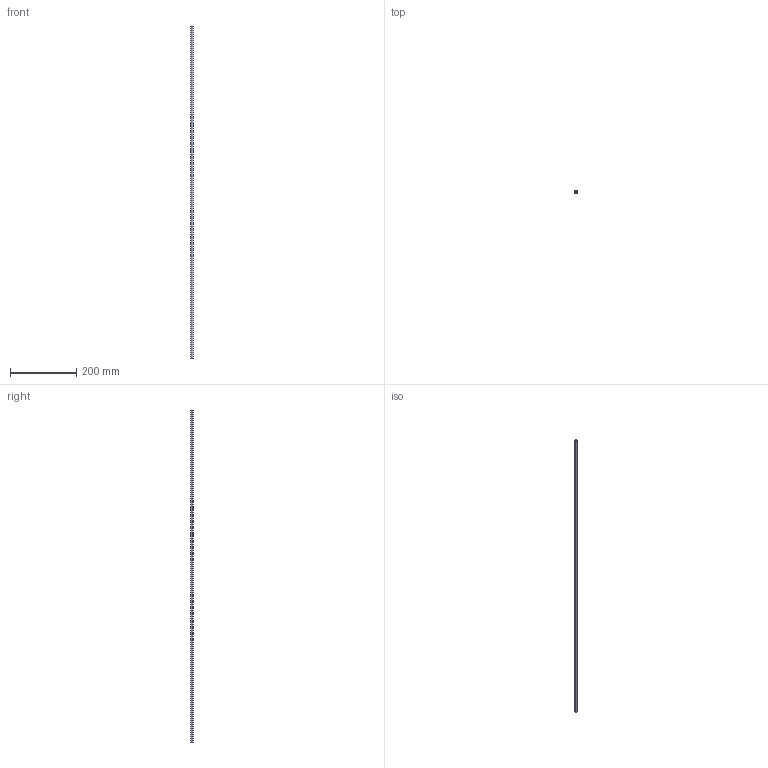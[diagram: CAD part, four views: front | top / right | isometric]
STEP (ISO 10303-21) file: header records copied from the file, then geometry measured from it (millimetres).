
FILE_DESCRIPTION (( 'STEP AP214' ), '1' );
FILE_NAME ('PCT8-1000.STEP', '2022-12-13T00:53:59', ( '' ), ( '' ), 'SwSTEP 2.0', 'SolidWorks 2018', '' );
FILE_SCHEMA (( 'AUTOMOTIVE_DESIGN' ));
Length unit declared in the file: millimetre
Products named in the file (1): PCT8-1000
Bounding box: 8 x 8 x 1000 mm (x, y, z)
Volume: 18095.6 mm3; surface area: 45275.1 mm2
Topology: 1 solids, 1 shells, 6 faces, 12 edges, 8 vertices
Faces by surface type: cylinder 4, plane 2
Entity records: 202 total; most frequent: DIRECTION 34, CARTESIAN_POINT 27, ORIENTED_EDGE 24, AXIS2_PLACEMENT_3D 15, EDGE_CURVE 12, VERTEX_POINT 8, CIRCLE 8, EDGE_LOOP 8
